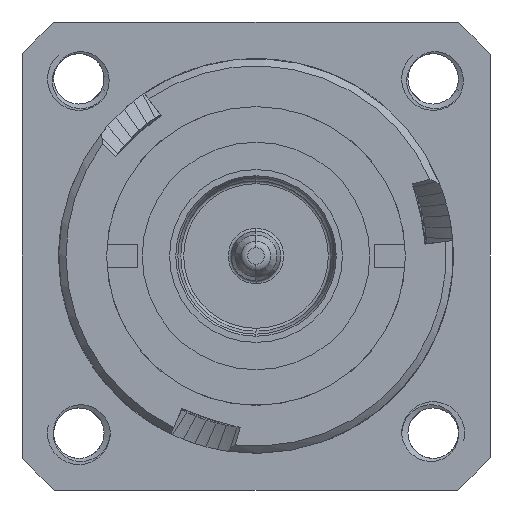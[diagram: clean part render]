
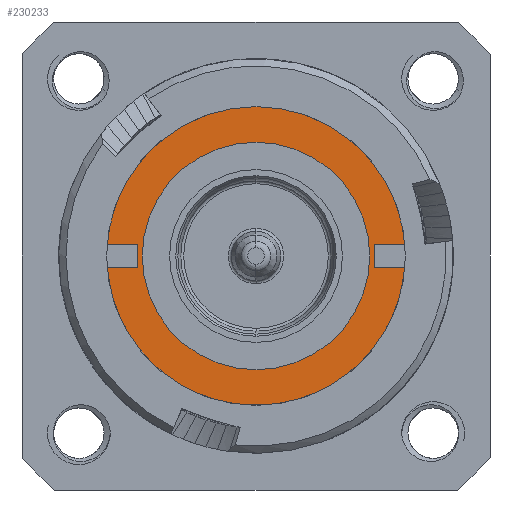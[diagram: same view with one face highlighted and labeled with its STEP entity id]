
A CAD part, left-side view. The second image highlights one B-rep face of the part: STEP entity #230233.
In plain terms, the highlighted planar face has unit normal (-1, 0, 0).
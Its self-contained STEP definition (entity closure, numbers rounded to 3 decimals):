
#58641=CARTESIAN_POINT('',(14.,0.,0.));
#58642=DIRECTION('',(1.,0.,0.));
#58643=DIRECTION('',(0.,-0.997,0.08));
#58644=AXIS2_PLACEMENT_3D('',#58641,#58642,#58643);
#58646=CARTESIAN_POINT('',(14.,0.,0.));
#58647=DIRECTION('',(-1.,0.,0.));
#58648=DIRECTION('',(0.,0.,-1.));
#58649=AXIS2_PLACEMENT_3D('',#58646,#58647,#58648);
#58651=CARTESIAN_POINT('',(14.,0.,0.));
#58652=DIRECTION('',(-1.,0.,0.));
#58653=DIRECTION('',(0.,0.,1.));
#58654=AXIS2_PLACEMENT_3D('',#58651,#58652,#58653);
#58672=CARTESIAN_POINT('',(14.,0.,0.));
#58673=DIRECTION('',(-1.,0.,0.));
#58674=DIRECTION('',(0.,-0.997,0.08));
#58675=AXIS2_PLACEMENT_3D('',#58672,#58673,#58674);
#91351=CARTESIAN_POINT('',(14.,10.342,0.825));
#91352=VERTEX_POINT('',#91351);
#91357=CARTESIAN_POINT('',(14.,-10.342,0.825));
#91358=VERTEX_POINT('',#91357);
#91399=CARTESIAN_POINT('',(14.,0.,-7.9));
#91400=CARTESIAN_POINT('',(14.,0.,7.9));
#91401=VERTEX_POINT('',#91399);
#91402=VERTEX_POINT('',#91400);
#230217=CARTESIAN_POINT('',(14.,0.,0.));
#230218=DIRECTION('',(-1.,0.,0.));
#230219=DIRECTION('',(0.,1.,0.));
#230220=AXIS2_PLACEMENT_3D('',#230217,#230218,#230219);
#230221=PLANE('308',#230220);
#230223=ORIENTED_EDGE('10223',*,*,#230222,.F.);
#230224=ORIENTED_EDGE('10232',*,*,#230184,.T.);
#230225=EDGE_LOOP('308',(#230223,#230224));
#230226=FACE_OUTER_BOUND('308',#230225,.F.);
#230228=ORIENTED_EDGE('10416',*,*,#230227,.T.);
#230230=ORIENTED_EDGE('10417',*,*,#230229,.T.);
#230231=EDGE_LOOP('308',(#230228,#230230));
#230232=FACE_BOUND('308',#230231,.F.);
#58645=CIRCLE('10232',#58644,10.375);
#58650=CIRCLE('10416',#58649,7.9);
#58655=CIRCLE('10417',#58654,7.9);
#58676=CIRCLE('10223',#58675,10.375);
#230184=EDGE_CURVE('10232',#91358,#91352,#58645,.T.);
#230222=EDGE_CURVE('10223',#91358,#91352,#58676,.T.);
#230227=EDGE_CURVE('10416',#91401,#91402,#58650,.T.);
#230229=EDGE_CURVE('10417',#91402,#91401,#58655,.T.);
#230233=ADVANCED_FACE('308',(#230226,#230232),#230221,.T.);
